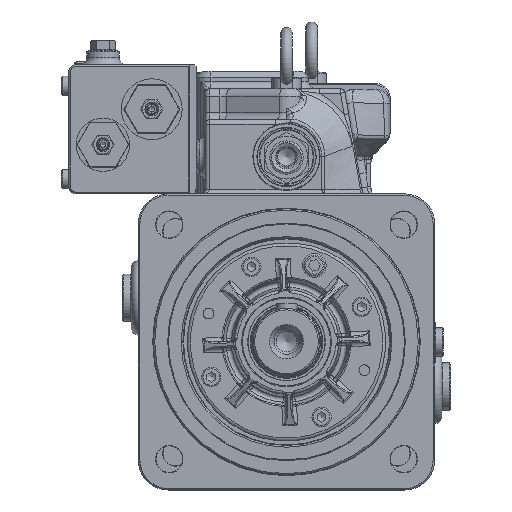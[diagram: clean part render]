
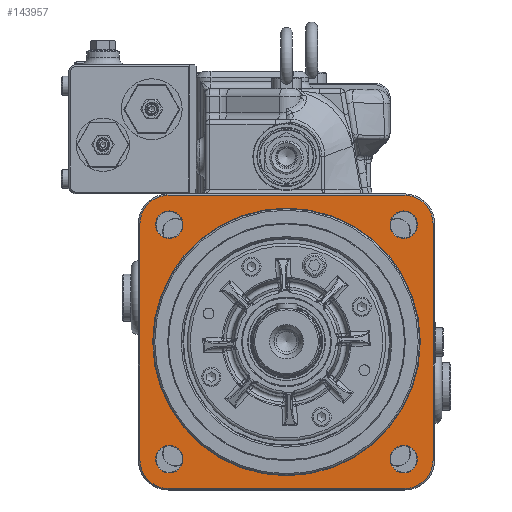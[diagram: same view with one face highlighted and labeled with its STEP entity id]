
A CAD part, top view. The second image highlights one B-rep face of the part: STEP entity #143957.
In plain terms, the highlighted planar face has unit normal (0, 0, 1).
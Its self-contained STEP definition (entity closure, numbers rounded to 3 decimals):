
#2283=FACE_BOUND('',#17430,.T.);
#2284=FACE_BOUND('',#17431,.T.);
#2285=FACE_BOUND('',#17432,.T.);
#2286=FACE_BOUND('',#17433,.T.);
#2287=FACE_BOUND('',#17434,.T.);
#2700=PLANE('',#152650);
#9894=FACE_OUTER_BOUND('',#17429,.T.);
#17429=EDGE_LOOP('',(#99359,#99360,#99361,#99362,#99363,#99364,#99365,#99366));
#17430=EDGE_LOOP('',(#99367));
#17431=EDGE_LOOP('',(#99368));
#17432=EDGE_LOOP('',(#99369));
#17433=EDGE_LOOP('',(#99370));
#17434=EDGE_LOOP('',(#99371));
#24895=LINE('',#206320,#41789);
#24896=LINE('',#206324,#41790);
#24897=LINE('',#206328,#41791);
#24898=LINE('',#206332,#41792);
#41789=VECTOR('',#165343,10.);
#41790=VECTOR('',#165346,10.);
#41791=VECTOR('',#165349,10.);
#41792=VECTOR('',#165352,10.);
#58996=CIRCLE('',#152647,9.25);
#58999=CIRCLE('',#152651,19.);
#59000=CIRCLE('',#152652,19.);
#59001=CIRCLE('',#152653,19.);
#59002=CIRCLE('',#152654,19.);
#59003=CIRCLE('',#152655,9.25);
#59004=CIRCLE('',#152656,9.25);
#59005=CIRCLE('',#152657,90.4);
#59006=CIRCLE('',#152658,9.25);
#61583=VERTEX_POINT('',#206310);
#61586=VERTEX_POINT('',#206318);
#61587=VERTEX_POINT('',#206319);
#61588=VERTEX_POINT('',#206321);
#61589=VERTEX_POINT('',#206323);
#61590=VERTEX_POINT('',#206325);
#61591=VERTEX_POINT('',#206327);
#61592=VERTEX_POINT('',#206329);
#61593=VERTEX_POINT('',#206331);
#61594=VERTEX_POINT('',#206334);
#61595=VERTEX_POINT('',#206336);
#61596=VERTEX_POINT('',#206338);
#61597=VERTEX_POINT('',#206340);
#76038=EDGE_CURVE('',#61583,#61583,#58996,.T.);
#76042=EDGE_CURVE('',#61586,#61587,#24895,.T.);
#76043=EDGE_CURVE('',#61588,#61586,#58999,.T.);
#76044=EDGE_CURVE('',#61589,#61588,#24896,.T.);
#76045=EDGE_CURVE('',#61590,#61589,#59000,.T.);
#76046=EDGE_CURVE('',#61591,#61590,#24897,.T.);
#76047=EDGE_CURVE('',#61592,#61591,#59001,.T.);
#76048=EDGE_CURVE('',#61593,#61592,#24898,.T.);
#76049=EDGE_CURVE('',#61587,#61593,#59002,.T.);
#76050=EDGE_CURVE('',#61594,#61594,#59003,.T.);
#76051=EDGE_CURVE('',#61595,#61595,#59004,.T.);
#76052=EDGE_CURVE('',#61596,#61596,#59005,.T.);
#76053=EDGE_CURVE('',#61597,#61597,#59006,.T.);
#99359=ORIENTED_EDGE('',*,*,#76042,.F.);
#99360=ORIENTED_EDGE('',*,*,#76043,.F.);
#99361=ORIENTED_EDGE('',*,*,#76044,.F.);
#99362=ORIENTED_EDGE('',*,*,#76045,.F.);
#99363=ORIENTED_EDGE('',*,*,#76046,.F.);
#99364=ORIENTED_EDGE('',*,*,#76047,.F.);
#99365=ORIENTED_EDGE('',*,*,#76048,.F.);
#99366=ORIENTED_EDGE('',*,*,#76049,.F.);
#99367=ORIENTED_EDGE('',*,*,#76050,.F.);
#99368=ORIENTED_EDGE('',*,*,#76051,.F.);
#99369=ORIENTED_EDGE('',*,*,#76052,.F.);
#99370=ORIENTED_EDGE('',*,*,#76053,.F.);
#99371=ORIENTED_EDGE('',*,*,#76038,.F.);
#143957=ADVANCED_FACE('',(#9894,#2283,#2284,#2285,#2286,#2287),#2700,.F.);
#152647=AXIS2_PLACEMENT_3D('',#206311,#165334,#165335);
#152650=AXIS2_PLACEMENT_3D('',#206317,#165341,#165342);
#152651=AXIS2_PLACEMENT_3D('',#206322,#165344,#165345);
#152652=AXIS2_PLACEMENT_3D('',#206326,#165347,#165348);
#152653=AXIS2_PLACEMENT_3D('',#206330,#165350,#165351);
#152654=AXIS2_PLACEMENT_3D('',#206333,#165353,#165354);
#152655=AXIS2_PLACEMENT_3D('',#206335,#165355,#165356);
#152656=AXIS2_PLACEMENT_3D('',#206337,#165357,#165358);
#152657=AXIS2_PLACEMENT_3D('',#206339,#165359,#165360);
#152658=AXIS2_PLACEMENT_3D('',#206341,#165361,#165362);
#165334=DIRECTION('center_axis',(0.,0.,1.));
#165335=DIRECTION('ref_axis',(0.,1.,0.));
#165341=DIRECTION('center_axis',(0.,0.,-1.));
#165342=DIRECTION('ref_axis',(-1.,0.,0.));
#165343=DIRECTION('',(0.,1.,0.));
#165344=DIRECTION('center_axis',(0.,0.,-1.));
#165345=DIRECTION('ref_axis',(-0.707,-0.707,0.));
#165346=DIRECTION('',(-1.,0.,0.));
#165347=DIRECTION('center_axis',(0.,0.,-1.));
#165348=DIRECTION('ref_axis',(0.707,-0.707,0.));
#165349=DIRECTION('',(0.,-1.,0.));
#165350=DIRECTION('center_axis',(0.,0.,-1.));
#165351=DIRECTION('ref_axis',(0.707,0.707,0.));
#165352=DIRECTION('',(1.,0.,0.));
#165353=DIRECTION('center_axis',(0.,0.,-1.));
#165354=DIRECTION('ref_axis',(-0.707,0.707,0.));
#165355=DIRECTION('center_axis',(0.,0.,1.));
#165356=DIRECTION('ref_axis',(1.,0.,0.));
#165357=DIRECTION('center_axis',(0.,0.,1.));
#165358=DIRECTION('ref_axis',(-1.,0.,0.));
#165359=DIRECTION('center_axis',(0.,0.,1.));
#165360=DIRECTION('ref_axis',(0.,-1.,0.));
#165361=DIRECTION('center_axis',(0.,0.,1.));
#165362=DIRECTION('ref_axis',(0.,-1.,0.));
#206310=CARTESIAN_POINT('',(-79.196,69.946,181.));
#206311=CARTESIAN_POINT('Origin',(-79.196,79.196,181.));
#206317=CARTESIAN_POINT('Origin',(0.,140.,181.));
#206318=CARTESIAN_POINT('',(-99.,-80.,181.));
#206319=CARTESIAN_POINT('',(-99.,80.,181.));
#206320=CARTESIAN_POINT('',(-99.,45.,181.));
#206321=CARTESIAN_POINT('',(-80.,-99.,181.));
#206322=CARTESIAN_POINT('Origin',(-80.,-80.,181.));
#206323=CARTESIAN_POINT('',(80.,-99.,181.));
#206324=CARTESIAN_POINT('',(25.,-99.,181.));
#206325=CARTESIAN_POINT('',(99.,-80.,181.));
#206326=CARTESIAN_POINT('Origin',(80.,-80.,181.));
#206327=CARTESIAN_POINT('',(99.,80.,181.));
#206328=CARTESIAN_POINT('',(99.,95.,181.));
#206329=CARTESIAN_POINT('',(80.,99.,181.));
#206330=CARTESIAN_POINT('Origin',(80.,80.,181.));
#206331=CARTESIAN_POINT('',(-80.,99.,181.));
#206332=CARTESIAN_POINT('',(-25.,99.,181.));
#206333=CARTESIAN_POINT('Origin',(-80.,80.,181.));
#206334=CARTESIAN_POINT('',(69.946,79.196,181.));
#206335=CARTESIAN_POINT('Origin',(79.196,79.196,181.));
#206336=CARTESIAN_POINT('',(-69.946,-79.196,181.));
#206337=CARTESIAN_POINT('Origin',(-79.196,-79.196,181.));
#206338=CARTESIAN_POINT('',(-90.4,0.,181.));
#206339=CARTESIAN_POINT('Origin',(0.,0.,181.));
#206340=CARTESIAN_POINT('',(79.196,-69.946,181.));
#206341=CARTESIAN_POINT('Origin',(79.196,-79.196,181.));
